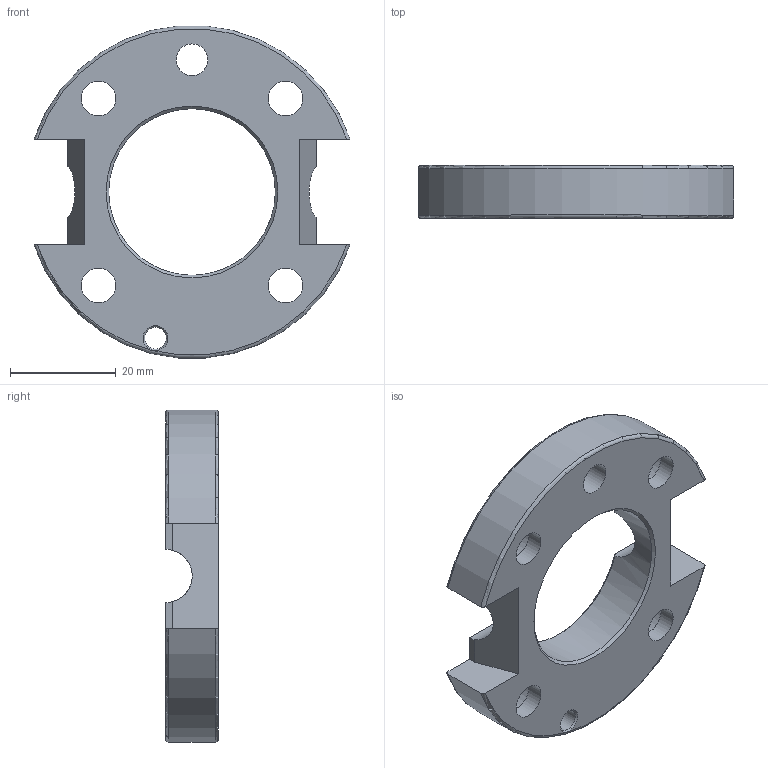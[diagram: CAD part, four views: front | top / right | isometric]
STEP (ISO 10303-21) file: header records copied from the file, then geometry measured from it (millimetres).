
FILE_DESCRIPTION(/* description */ ('G-SWA063-Unterteil'),/* implementation_level */ '2;1');
FILE_NAME(/* name */ '\\dc01\daten\CAD\Standard\Daten\3D-Datenbank\SWA\4 - 3D-CAD-Daten SWA 050-160\SWA063\step-Daten\G-SWA063-2U.stp',/* time_stamp */ '2020-01-29T15:50:47+01:00',/* author */ ('ysplieth'),/* organization */ ('GRIP GmbH'),/* preprocessor_version */ 'ST-DEVELOPER v17',/* originating_system */ 'Autodesk Inventor 2018',/* authorisation */ '');
FILE_SCHEMA (('AUTOMOTIVE_DESIGN { 1 0 10303 214 3 1 1 }'));
Length unit declared in the file: millimetre
Products named in the file (1): G-SWA063-5.1
Bounding box: 59.74 x 10 x 62.78 mm (x, y, z)
Volume: 15758 mm3; surface area: 8182.4 mm2
Topology: 1 solids, 1 shells, 41 faces, 119 edges, 82 vertices
Faces by surface type: plane 17, cylinder 15, cone 5, torus 4
Full cylindrical faces by diameter (mm): 4.1 x1, 6 x1, 6.6 x4, 11 x4, 31.5 x1
Entity records: 1565 total; most frequent: CARTESIAN_POINT 381, DIRECTION 242, ORIENTED_EDGE 238, EDGE_CURVE 119, AXIS2_PLACEMENT_3D 97, VERTEX_POINT 82, EDGE_LOOP 57, CIRCLE 53
